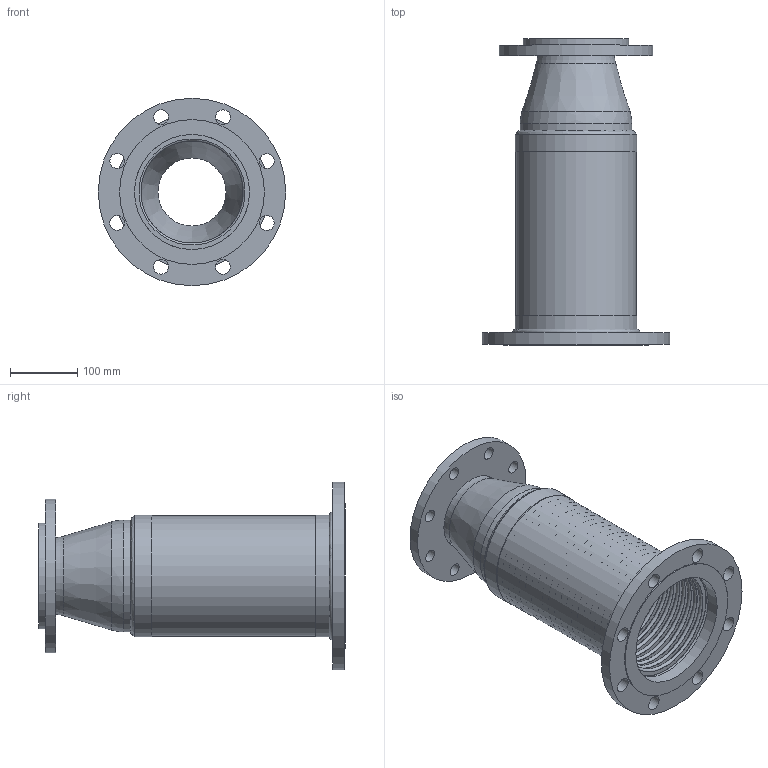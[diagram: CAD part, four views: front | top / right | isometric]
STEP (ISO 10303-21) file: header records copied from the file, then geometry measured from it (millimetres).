
FILE_DESCRIPTION((''),'2;1');
FILE_NAME('C:\2012_Work\Designs\RFFL\RFFL-6x4in.stp','2013-08-19T17:14:00',('KShiels'),(''),'Autodesk Inventor 2012','Autodesk Inventor 2012','');
FILE_SCHEMA(('AUTOMOTIVE_DESIGN { 1 0 10303 214 1 1 1 1 }'));
Length unit declared in the file: inch
Products named in the file (9): RFFL-6x4in; RFFL-6x4in_Welds; A-31000_6in_RFFL-BRAID; A-31000_6in_RFFL-BELLOWS; A-31000_6in_RFFL-BRAID-COLLAR; A-30988_6in-FIXED-FLANGE; A-30989_4in-FLOATING-FLANGE; A-30991_6x4in-REDUCER; A-30990_4in-WASHER
Assembly tree (9 placements, depth 2):
  RFFL-6x4in
    RFFL-6x4in_Welds
    A-31000_6in_RFFL-BRAID
    A-31000_6in_RFFL-BELLOWS
    A-31000_6in_RFFL-BRAID-COLLAR  x2
    A-30988_6in-FIXED-FLANGE
    A-30989_4in-FLOATING-FLANGE
    A-30991_6x4in-REDUCER
    A-30990_4in-WASHER
Bounding box: 279.4 x 457.39 x 279.4 mm (x, y, z)
Volume: 1870310.4 mm3; surface area: 1579168.7 mm2
Topology: 11 solids, 11 shells, 260 faces, 447 edges, 303 vertices
Faces by surface type: plane 116, torus 99, cylinder 36, cone 5, bspline 4
Full cylindrical faces by diameter (mm): 19.05 x8, 22.225 x8, 101.6 x1, 113.64 x1, 117.475 x3, 152.4 x1, 157.163 x1, 166.624 x2, 171.45 x1, 179.07 x3, 180.086 x1, 181.451 x3, 215.9 x1, 228.6 x1, 279.4 x1
Entity records: 6602 total; most frequent: CARTESIAN_POINT 1731, DIRECTION 1072, ORIENTED_EDGE 562, EDGE_LOOP 541, AXIS2_PLACEMENT_3D 536, FACE_BOUND 285, EDGE_CURVE 281, VERTEX_POINT 278
